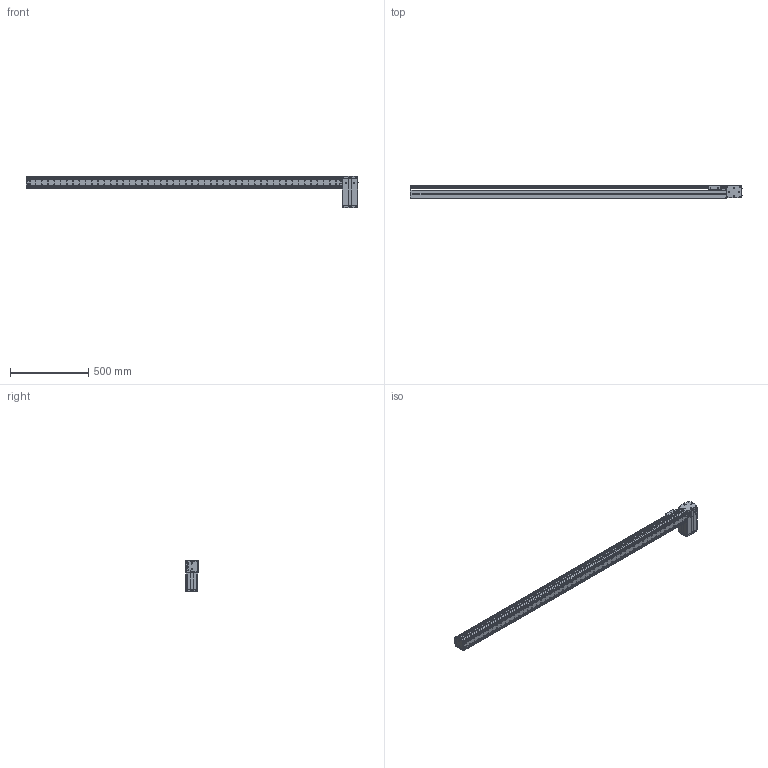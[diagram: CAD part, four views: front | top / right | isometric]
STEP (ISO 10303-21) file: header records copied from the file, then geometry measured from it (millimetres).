
FILE_DESCRIPTION((''),'2;1');
FILE_NAME('BE10_-BL-S_N-J5_IGS_PRT','2017-06-18T',(' '),(''),'PRO/ENGINEER BY PARAMETRIC TECHNOLOGY CORPORATION, 2015030','PRO/ENGINEER BY PARAMETRIC TECHNOLOGY CORPORATION, 2015030','');
FILE_SCHEMA(('CONFIG_CONTROL_DESIGN'));
Products named in the file (1): BE10_-BL-S_N-J5_IGS_PRT
Bounding box: 2120.8 x 85 x 200.22 mm (x, y, z)
Volume: 2708854.9 mm3; surface area: 1932376 mm2
Topology: 5 solids, 179 shells, 2321 faces, 6361 edges, 4239 vertices
Faces by surface type: cylinder 1091, plane 1071, cone 103, sphere 28, torus 25, bspline 3
Entity records: 76200 total; most frequent: CARTESIAN_POINT 15789, DIRECTION 12860, ORIENTED_EDGE 11946, EDGE_CURVE 6307, AXIS2_PLACEMENT_3D 4710, VERTEX_POINT 4239, VECTOR 3440, LINE 3440
